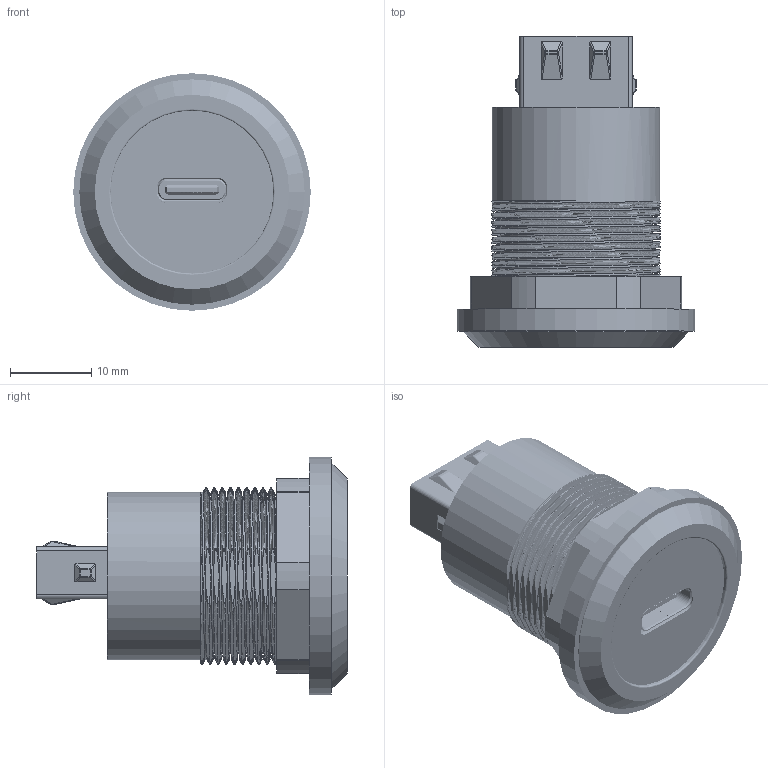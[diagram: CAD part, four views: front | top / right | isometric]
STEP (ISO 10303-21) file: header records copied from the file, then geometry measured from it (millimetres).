
FILE_DESCRIPTION(('FreeCAD Model'),'2;1');
FILE_NAME('Open CASCADE Shape Model','2024-03-25T10:25:43',(''),(''), 'Open CASCADE STEP processor 7.6','FreeCAD','Unknown');
FILE_SCHEMA(('AUTOMOTIVE_DESIGN { 1 0 10303 214 1 1 1 1 }'));
Length unit declared in the file: millimetre
Products named in the file (6): Unnamed; 49194_Connector; 49194_USB-C_female; 49194_Rubber O-ring; 49194_USB_female_A_backside; 49194_Coupling_nut
Assembly tree (5 placements, depth 2):
  Unnamed
    49194_Connector
    49194_USB-C_female
    49194_Rubber O-ring
    49194_USB_female_A_backside
    49194_Coupling_nut
Bounding box: 29.2 x 38.2 x 29.2 mm (x, y, z)
Volume: 2503.4 mm3; surface area: 10867.7 mm2
Topology: 10 solids, 11 shells, 1343 faces, 3612 edges, 2304 vertices
Faces by surface type: plane 931, cylinder 294, bspline 91, cone 17, torus 10
Full cylindrical faces by diameter (mm): 18.6 x1, 20 x1, 20.6 x1, 25.6 x1, 27.7 x1, 29.2 x1
Entity records: 266651 total; most frequent: CARTESIAN_POINT 234285, ORIENTED_EDGE 7074, DIRECTION 6006, EDGE_CURVE 3568, LINE 2500, VECTOR 2500, VERTEX_POINT 2302, AXIS2_PLACEMENT_3D 1753
